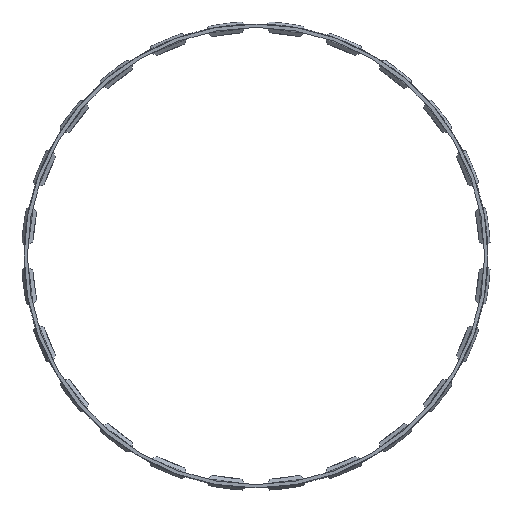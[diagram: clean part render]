
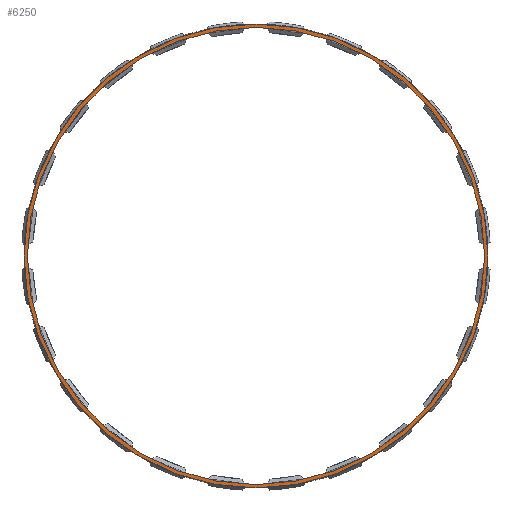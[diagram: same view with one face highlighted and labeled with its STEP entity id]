
A CAD part, front view. The second image highlights one B-rep face of the part: STEP entity #6250.
In plain terms, the highlighted planar face has unit normal (0, -1, 0).
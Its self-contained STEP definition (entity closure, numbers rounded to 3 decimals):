
#15=FACE_BOUND('',#1297,.T.);
#225=CIRCLE('',#6912,47.6);
#257=CIRCLE('',#6986,46.9);
#618=PLANE('',#6988);
#957=FACE_OUTER_BOUND('',#1296,.T.);
#1296=EDGE_LOOP('',(#5740));
#1297=EDGE_LOOP('',(#5741));
#2681=VERTEX_POINT('',#13486);
#2699=VERTEX_POINT('',#13710);
#3652=EDGE_CURVE('',#2681,#2681,#225,.T.);
#3713=EDGE_CURVE('',#2699,#2699,#257,.T.);
#5740=ORIENTED_EDGE('',*,*,#3652,.F.);
#5741=ORIENTED_EDGE('',*,*,#3713,.F.);
#6250=ADVANCED_FACE('',(#957,#15),#618,.F.);
#6912=AXIS2_PLACEMENT_3D('',#13488,#8403,#8404);
#6986=AXIS2_PLACEMENT_3D('',#13712,#8561,#8562);
#6988=AXIS2_PLACEMENT_3D('',#13714,#8565,#8566);
#8403=DIRECTION('center_axis',(0.,1.,0.));
#8404=DIRECTION('ref_axis',(-1.,0.,0.));
#8561=DIRECTION('center_axis',(0.,-1.,0.));
#8562=DIRECTION('ref_axis',(1.,0.,0.));
#8565=DIRECTION('center_axis',(0.,1.,0.));
#8566=DIRECTION('ref_axis',(0.,0.,1.));
#13486=CARTESIAN_POINT('',(47.6,0.,0.));
#13488=CARTESIAN_POINT('Origin',(0.,0.,0.));
#13710=CARTESIAN_POINT('',(-46.9,0.,0.));
#13712=CARTESIAN_POINT('Origin',(0.,0.,0.));
#13714=CARTESIAN_POINT('Origin',(0.,0.,0.));
